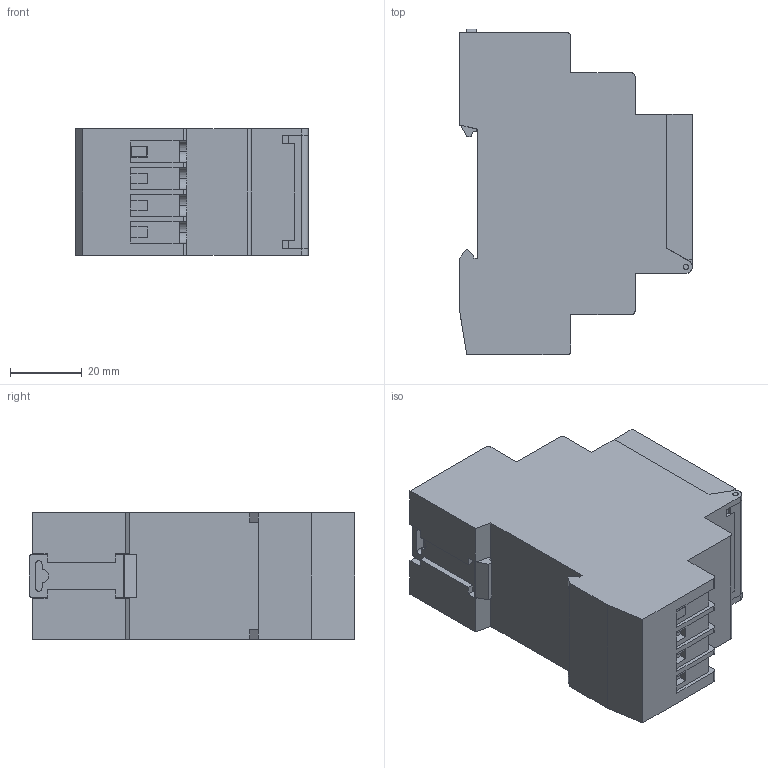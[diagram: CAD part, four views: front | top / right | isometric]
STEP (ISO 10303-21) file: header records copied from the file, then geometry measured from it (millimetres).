
FILE_DESCRIPTION (( 'STEP AP203' ), '1' );
FILE_NAME ('Ðåëå íàïðÿæåíèÿ öèôðîâîå RV-3ZG.STEP', '2021-11-25T20:45:39', ( '' ), ( '' ), 'SwSTEP 2.0', 'SolidWorks 2017', '' );
FILE_SCHEMA (( 'CONFIG_CONTROL_DESIGN' ));
Length unit declared in the file: millimetre
Products named in the file (1): Ðåëå íàïðÿæåíèÿ öèôðîâîå RV-3ZG
Bounding box: 65 x 91 x 35.4 mm (x, y, z)
Volume: 151687.9 mm3; surface area: 27704.9 mm2
Topology: 15 solids, 15 shells, 436 faces, 1173 edges, 777 vertices
Faces by surface type: plane 320, cylinder 96, cone 12, torus 8
Entity records: 13658 total; most frequent: CARTESIAN_POINT 2387, ORIENTED_EDGE 2346, DIRECTION 2279, EDGE_CURVE 1173, VECTOR 941, LINE 941, VERTEX_POINT 777, AXIS2_PLACEMENT_3D 669
